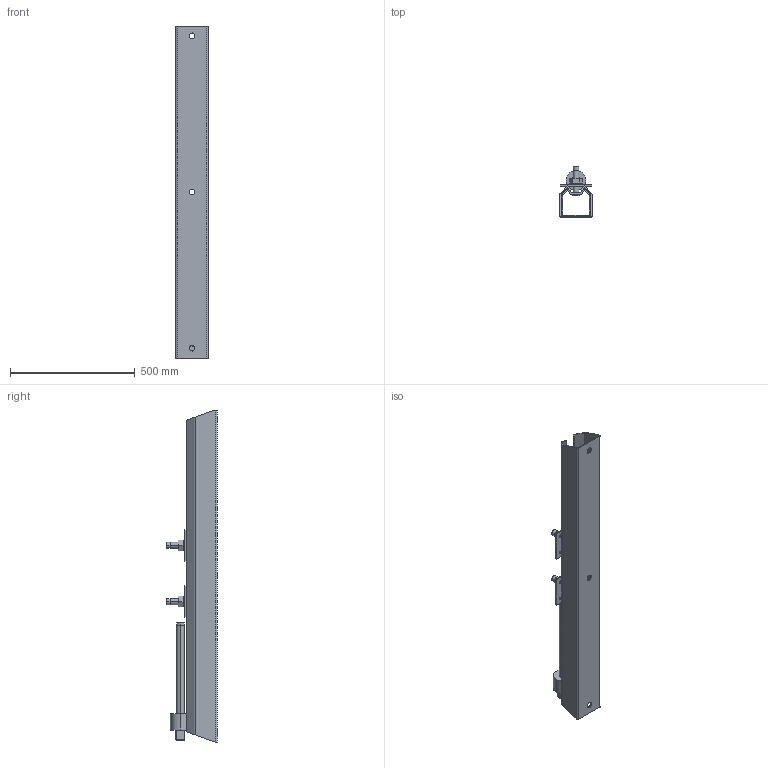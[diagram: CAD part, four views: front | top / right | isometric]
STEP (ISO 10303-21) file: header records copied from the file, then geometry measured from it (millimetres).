
FILE_DESCRIPTION((''),'2;1');
FILE_NAME('ZONGZHUANG','2025-07-02T',('Administrator'),(''),'CREO PARAMETRIC BY PTC INC, 2015480','CREO PARAMETRIC BY PTC INC, 2015480','');
FILE_SCHEMA(('CONFIG_CONTROL_DESIGN'));
Length unit declared in the file: millimetre
Products named in the file (10): ZHUTI; PRT0003; ZUO2; PRT0004; ZUO002; 埴翐; 12LUOSI; 菜え; 粟菜; ZONGZHUANG
Assembly tree (12 placements, depth 3):
  ZONGZHUANG
    ZHUTI
    ZUO002  x2
      PRT0003
      ZUO2
      PRT0004
    埴翐
    12LUOSI
    菜え  x2
    粟菜  x2
Bounding box: 130 x 200.48 x 1330 mm (x, y, z)
Volume: 4004322.9 mm3; surface area: 1415026.5 mm2
Topology: 13 solids, 15 shells, 260 faces, 682 edges, 420 vertices
Faces by surface type: plane 136, sphere 64, cylinder 48, torus 8, cone 4
Entity records: 5224 total; most frequent: CARTESIAN_POINT 922, DIRECTION 906, ORIENTED_EDGE 796, EDGE_CURVE 400, AXIS2_PLACEMENT_3D 330, VERTEX_POINT 270, VECTOR 246, LINE 246
